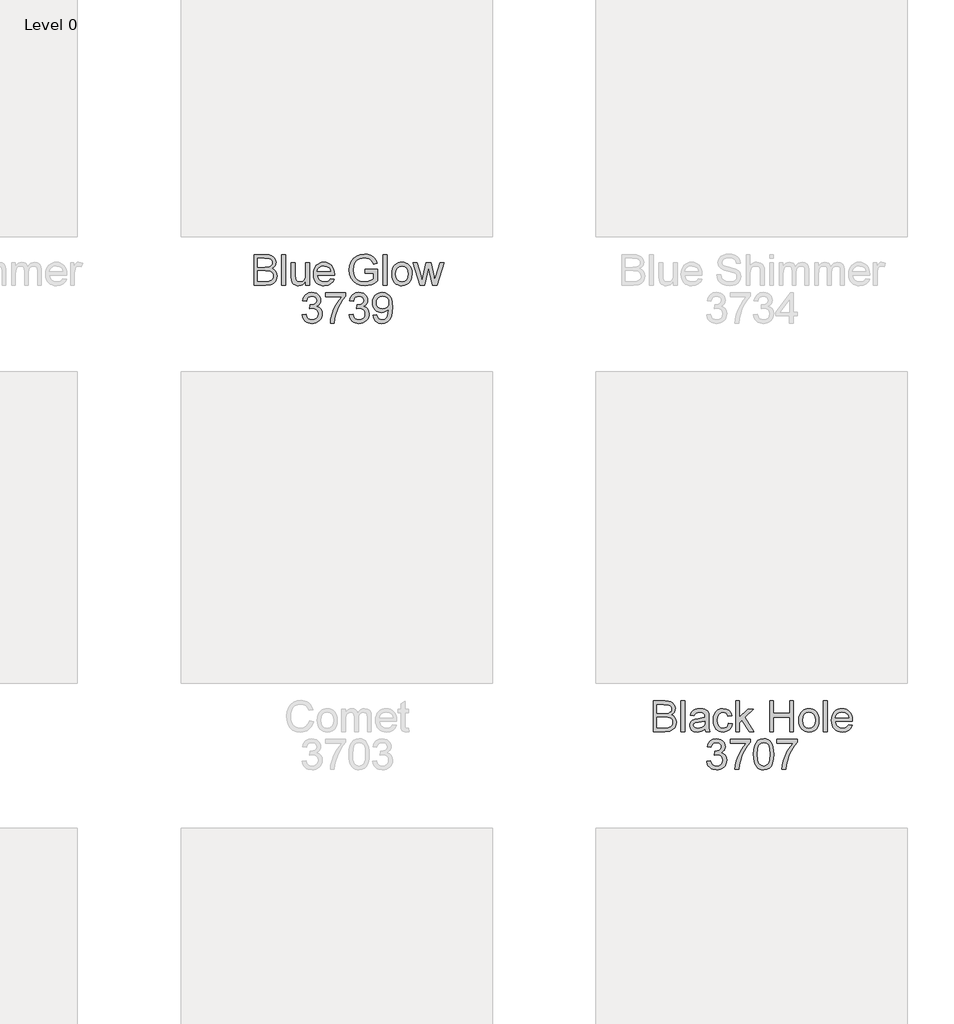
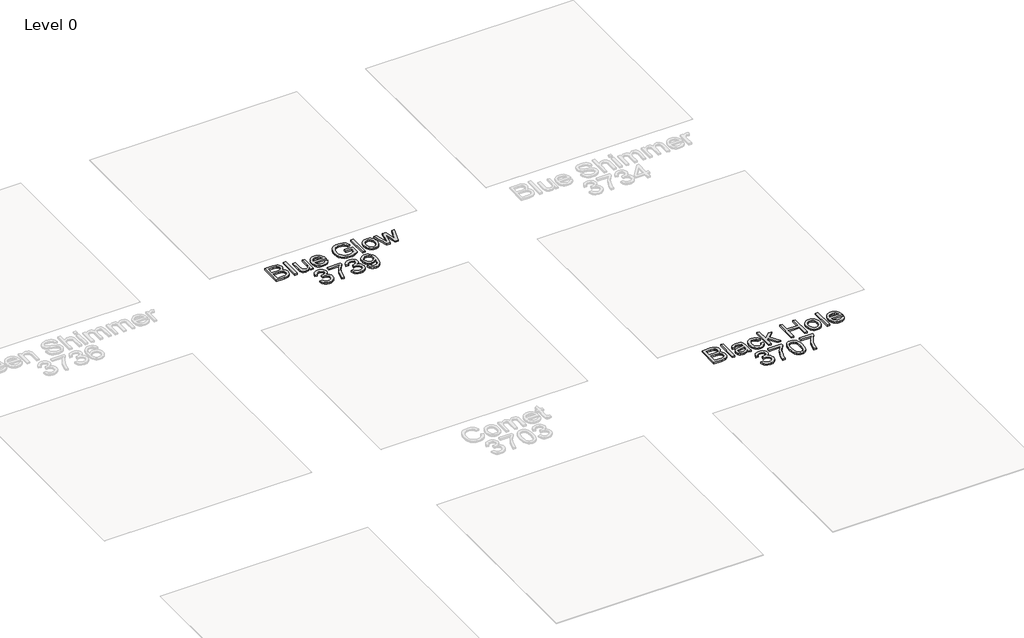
# One storey, part 11 of 14: 2 proxies.
"""IFC4 building model written with IfcOpenShell, lengths in millimetres."""

from ifc_helpers import new_model, si_unit, origin, origin_with_axes, place, context, project, spatial, polyline, outline, extrude, element, save

model = new_model("IFC4")

# Units and contexts
model_context = context("Model", 3, world=origin())
ifc_project = project(units=[si_unit("LENGTHUNIT", "METRE", prefix="MILLI")], contexts=[model_context])

# Site, building, storey
site = spatial("IfcSite", under=ifc_project)
building = spatial("IfcBuilding", under=site)
storey = spatial("IfcBuildingStorey", under=building, Name="Level 0", Elevation=0.0)

# Proxies
placement = place(None, origin())
element("IfcBuildingElementProxy", 1, Name="300mm Arial", ObjectType="300mm Arial", at=placement, inside=storey, context=model_context, shape_type="SweptSolid", body=[
    extrude(outline(polyline([(3249.9631967, -2137.1730179), (3249.9631967, -1841.7884025), (3362.6795429, -1841.7884025), (3393.6801438, -1843.9608784), (3417.8838698, -1850.4783063), (3436.4355525, -1861.5029457), (3450.4800236, -1877.1970563), (3459.3231727, -1895.6585948), (3462.270889, -1914.9855179), (3459.7919227, -1932.7709746), (3452.3550236, -1949.4927294), (3439.9061054, -1964.123138), (3422.3910813, -1975.6345563), (3443.3135573, -1986.5600371), (3458.7732929, -2003.1826332), (3468.3195669, -2024.4025852), (3471.5016583, -2049.1201332), (3469.3291823, -2069.71809), (3462.8117544, -2088.8196525), (3453.0851919, -2105.0636429), (3441.2853121, -2117.0888832), (3426.8351919, -2125.7968159), (3409.1579083, -2132.0888832), (3361.8141583, -2137.1730179), (3249.9631967, -2137.1730179)]), holes=[polyline([(3286.8862736, -2100.2499409), (3362.6074275, -2100.2499409), (3390.0112736, -2098.8076332), (3413.1963698, -2090.7667679), (3428.5569467, -2074.3605179), (3433.0731727, -2062.7679698), (3434.5785813, -2049.4807102), (3432.8117544, -2034.0480179), (3427.5112736, -2020.7787871), (3418.2534611, -2010.4031861), (3404.614639, -2003.6513832), (3385.2967304, -1999.9464554), (3359.0016583, -1998.7114794), (3286.8862736, -1998.7114794), (3286.8862736, -2100.2499409)]), polyline([(3286.8862736, -1961.7884025), (3354.3141583, -1961.7884025), (3393.6891583, -1958.6153255), (3407.4722111, -1953.1435707), (3417.3790621, -1944.9494602), (3423.3556246, -1934.1591957), (3425.3478121, -1920.8989794), (3423.490841, -1908.0263832), (3417.9199275, -1896.8124409), (3408.8874756, -1888.0594361), (3396.645889, -1882.5696525), (3349.193966, -1878.7114794), (3286.8862736, -1878.7114794), (3286.8862736, -1961.7884025)])]), origin_with_axes(), (0.0, 0.0, 1.0), 20.0),
    extrude(outline(polyline([(3517.6555044, -2137.1730179), (3517.6555044, -1841.7884025), (3554.5785813, -1841.7884025), (3554.5785813, -2137.1730179), (3517.6555044, -2137.1730179)])), origin_with_axes(), (0.0, 0.0, 1.0), 20.0),
    extrude(outline(polyline([(3748.4247352, -2137.1730179), (3748.4247352, -2099.889364), (3735.0653602, -2118.2201933), (3719.506466, -2131.3136429), (3701.7480525, -2139.1697126), (3681.7901198, -2141.7884025), (3663.8063458, -2139.9494602), (3647.0665621, -2134.4326332), (3633.022091, -2126.139364), (3623.1242544, -2115.9710948), (3612.1266583, -2088.7835948), (3609.9631967, -2054.4566717), (3609.9631967, -1920.2499409), (3646.8862736, -1920.2499409), (3646.8862736, -2037.076864), (3649.1218506, -2074.7210948), (3654.5034611, -2087.2781861), (3663.725216, -2096.8244602), (3676.1741342, -2102.8551092), (3691.2372352, -2104.8653255), (3707.1657208, -2102.8100371), (3722.0665621, -2096.6441717), (3734.3532208, -2086.935638), (3742.4391583, -2074.2523448), (3746.928341, -2056.8815515), (3748.4247352, -2033.1105179), (3748.4247352, -1920.2499409), (3785.3478121, -1920.2499409), (3785.3478121, -2137.1730179), (3748.4247352, -2137.1730179)])), origin_with_axes(), (0.0, 0.0, 1.0), 20.0),
    extrude(outline(polyline([(3987.9920429, -2072.5576332), (4024.193966, -2077.1730179), (4011.1500958, -2104.4506621), (3990.3357929, -2124.8412871), (3962.2198073, -2137.5516236), (3927.270889, -2141.7884025), (3904.3607328, -2139.9607282), (3883.9475717, -2134.4777054), (3866.0314059, -2125.339334), (3850.6122352, -2112.545614), (3838.2128962, -2096.4526152), (3829.3562256, -2077.4164073), (3824.0422232, -2055.4369902), (3822.270889, -2030.514364), (3824.060252, -2004.7466356), (3829.428341, -1982.0347967), (3838.3751559, -1962.3788472), (3850.9006967, -1945.7787871), (3866.2793025, -1932.5906861), (3883.7853121, -1923.170614), (3903.4187256, -1917.5185707), (3925.1795429, -1915.6345563), (3946.2394888, -1917.5140635), (3965.2847111, -1923.1525852), (3982.3152099, -1932.5501212), (3997.3309852, -1945.7066717), (4009.588347, -1962.2706741), (4018.3436054, -1981.8905659), (4023.5967604, -2004.5663472), (4025.3478121, -2030.2980179), (4025.131466, -2040.2499409), (3859.193966, -2040.2499409), (3865.5851919, -2067.8881621), (3880.4319467, -2088.2066717), (3901.8592304, -2100.7006621), (3927.9920429, -2104.8653255), (3947.6434852, -2102.936239), (3964.193966, -2097.1489794), (3977.6434852, -2087.1429698), (3987.9920429, -2072.5576332)]), holes=[polyline([(3859.193966, -2003.326864), (3988.4247352, -2003.326864), (3983.4307448, -1983.8196525), (3973.6410813, -1969.8653255), (3952.114639, -1956.8845563), (3925.0353121, -1952.5576332), (3900.14649, -1956.0101573), (3879.5665621, -1966.3677294), (3865.2606727, -1982.5125611), (3859.193966, -2003.326864)])]), origin_with_axes(), (0.0, 0.0, 1.0), 20.0),
    extrude(outline(polyline([(4320.7324275, -2021.7884025), (4320.7324275, -1984.8653255), (4440.7324275, -1984.8653255), (4440.7324275, -2095.2739794), (4411.5707688, -2115.5564313), (4381.489639, -2130.1057102), (4350.5611535, -2138.8677294), (4318.8574275, -2141.7884025), (4277.4361535, -2137.1459746), (4239.9992544, -2123.2186909), (4208.8994948, -2100.4933304), (4186.489639, -2069.4566717), (4172.9409611, -2032.2271044), (4168.4247352, -1990.9230179), (4172.9229323, -1949.3214554), (4186.4175236, -1910.6225371), (4208.349615, -1878.1615996), (4238.1603121, -1855.2739794), (4274.4704083, -1841.6982582), (4315.9006967, -1837.1730179), (4346.3153602, -1839.796215), (4373.6651198, -1847.6658063), (4396.6969708, -1860.2138832), (4414.1579083, -1876.8725371), (4427.0755765, -1898.4440515), (4436.4776198, -1925.7307102), (4402.4391583, -1935.3220563), (4394.8399996, -1915.8599169), (4385.600216, -1901.1754217), (4373.3766583, -1890.1057102), (4356.8261775, -1881.4879217), (4337.0936054, -1875.9440515), (4315.3237736, -1874.0960948), (4289.8399996, -1876.0882823), (4268.052139, -1882.0648448), (4250.0413217, -1891.2775852), (4235.8886775, -1902.9783063), (4216.8862736, -1931.4278255), (4208.2324275, -1959.3004217), (4205.3478121, -1989.4085948), (4208.818365, -2024.71809), (4219.2300236, -2053.7715755), (4236.2672833, -2076.3617198), (4259.614639, -2092.2811909), (4286.9373554, -2101.7192919), (4315.9006967, -2104.8653255), (4341.474615, -2102.4945323), (4366.4175236, -2095.3821525), (4388.0791823, -2085.5834746), (4403.8093506, -2075.1537871), (4403.8093506, -2021.7884025), (4320.7324275, -2021.7884025)])), origin_with_axes(), (0.0, 0.0, 1.0), 20.0),
    extrude(outline(polyline([(4496.1170429, -2137.1730179), (4496.1170429, -1841.7884025), (4533.0401198, -1841.7884025), (4533.0401198, -2137.1730179), (4496.1170429, -2137.1730179)])), origin_with_axes(), (0.0, 0.0, 1.0), 20.0),
    extrude(outline(polyline([(4579.193966, -2028.7114794), (4581.1906607, -2000.6180299), (4587.1807448, -1976.4097967), (4597.1642184, -1956.0867799), (4611.1410813, -1939.6489794), (4625.2125958, -1929.1426693), (4640.7444467, -1921.6381621), (4657.7366342, -1917.1354578), (4676.1891583, -1915.6345563), (4696.5595008, -1917.4622306), (4714.9782208, -1922.9452534), (4731.4453181, -1932.0836248), (4745.9607929, -1944.8773448), (4757.8079984, -1960.893721), (4766.2702881, -1979.7000611), (4771.3476619, -2001.2963652), (4773.0401198, -2025.6826332), (4770.0473313, -2062.9843159), (4761.068966, -2091.3797486), (4746.3664419, -2112.6447727), (4726.2011775, -2128.5552294), (4702.2498554, -2138.4801092), (4676.1891583, -2141.7884025), (4655.5213398, -2139.967489), (4636.9313458, -2134.5047486), (4620.4191763, -2125.4001813), (4605.9848313, -2112.6537871), (4594.2638277, -2096.4819121), (4585.8916823, -2077.1009025), (4580.868395, -2054.5107582), (4579.193966, -2028.7114794)]), holes=[polyline([(4616.1170429, -2028.639364), (4620.3898794, -2062.0558304), (4633.208389, -2085.8629217), (4652.4992544, -2100.1147246), (4676.1891583, -2104.8653255), (4699.770889, -2100.0876813), (4719.0256967, -2085.7547486), (4731.8442063, -2061.6321525), (4736.1170429, -2027.4855179), (4731.8171631, -1995.0426092), (4718.9175236, -1971.5600371), (4699.6356727, -1957.3082342), (4676.1891583, -1952.5576332), (4652.4992544, -1957.2902054), (4633.208389, -1971.4879217), (4620.3898794, -1995.2409265), (4616.1170429, -2028.639364)])]), origin_with_axes(), (0.0, 0.0, 1.0), 20.0),
    extrude(outline(polyline([(4850.5641583, -2137.1730179), (4784.5785813, -1920.2499409), (4822.943966, -1920.2499409), (4860.3718506, -2046.8124409), (4871.5497352, -2092.0287871), (4880.708389, -2048.4710948), (4910.4920429, -1920.2499409), (4954.4824275, -1920.2499409), (4984.1218506, -2048.1105179), (4992.270889, -2087.5576332), (5003.9535813, -2045.9470563), (5041.4535813, -1920.2499409), (5079.9631967, -1920.2499409), (5013.4728121, -2137.1730179), (4968.833389, -2137.1730179), (4940.4920429, -2009.9614794), (4932.270889, -1970.2980179), (4895.708389, -2137.1730179), (4850.5641583, -2137.1730179)])), origin_with_axes(), (0.0, 0.0, 1.0), 20.0),
    extrude(outline(polyline([(3713.8093506, -2423.326864), (3750.7324275, -2418.7114794), (3758.9986535, -2441.9146044), (3771.1050236, -2457.5816717), (3787.64649, -2466.5059505), (3809.2180044, -2469.4807102), (3834.5305044, -2465.3881621), (3854.0737736, -2453.1105179), (3866.567764, -2434.7932102), (3870.7324275, -2412.5816717), (3866.6038217, -2391.4969361), (3854.2180044, -2374.3965755), (3835.4680044, -2363.0654457), (3812.2468506, -2359.2884025), (3786.3574275, -2363.326864), (3790.4680044, -2326.4037871), (3796.381466, -2326.8364794), (3818.5028602, -2324.186239), (3838.2805044, -2316.2355179), (3852.2348313, -2302.7859986), (3856.8862736, -2283.639364), (3853.5148794, -2267.6928496), (3843.4006967, -2254.7571525), (3827.9680044, -2246.1844361), (3808.6410813, -2243.326864), (3789.2781006, -2246.2114794), (3773.4487736, -2254.8653255), (3761.8922833, -2269.2884025), (3755.3478121, -2289.4807102), (3718.4247352, -2284.8653255), (3729.2961294, -2251.7102775), (3748.6410813, -2226.9566717), (3775.1074275, -2211.5420082), (3807.3430044, -2206.4037871), (3830.5551438, -2208.93684), (3851.8742544, -2216.5359986), (3869.849014, -2228.5251813), (3883.0281006, -2244.2283063), (3891.1140381, -2262.3202534), (3893.8093506, -2281.4759025), (3891.2492544, -2299.3244602), (3883.568966, -2315.514364), (3870.8766583, -2329.3064313), (3853.2805044, -2339.9614794), (3876.3934852, -2349.3004217), (3893.520889, -2365.201864), (3904.1218506, -2386.8004217), (3907.6555044, -2413.2307102), (3905.8886775, -2431.9626813), (3900.5881967, -2449.2162871), (3891.7540621, -2464.9915275), (3879.3862736, -2479.2884025), (3864.3186655, -2491.1513832), (3847.3850717, -2499.6249409), (3828.5854924, -2504.7090755), (3807.9199275, -2506.4037871), (3772.2228121, -2500.6165275), (3756.8622352, -2493.3824529), (3743.1603121, -2483.2547486), (3731.6714299, -2470.8283664), (3722.9499756, -2456.6982582), (3713.8093506, -2423.326864)])), origin_with_axes(), (0.0, 0.0, 1.0), 20.0),
    extrude(outline(polyline([(3939.9631967, -2247.9422486), (3939.9631967, -2211.0191717), (4133.8093506, -2211.0191717), (4133.8093506, -2240.8749409), (4106.1801438, -2275.841888), (4078.8213698, -2320.3100371), (4054.6897592, -2370.2228977), (4036.7420429, -2421.5239794), (4027.943966, -2459.9073929), (4023.0401198, -2501.7884025), (3986.1170429, -2501.7884025), (3990.1104323, -2463.7295082), (4000.7925236, -2418.4951332), (4017.8748554, -2370.5474169), (4041.068966, -2324.3484986), (4068.1482929, -2282.5846765), (4096.8862736, -2247.9422486), (3939.9631967, -2247.9422486)])), origin_with_axes(), (0.0, 0.0, 1.0), 20.0),
    extrude(outline(polyline([(4166.1170429, -2423.326864), (4203.0401198, -2418.7114794), (4211.3063458, -2441.9146044), (4223.412716, -2457.5816717), (4239.9541823, -2466.5059505), (4261.5256967, -2469.4807102), (4286.8381967, -2465.3881621), (4306.381466, -2453.1105179), (4318.8754563, -2434.7932102), (4323.0401198, -2412.5816717), (4318.911514, -2391.4969361), (4306.5256967, -2374.3965755), (4287.7756967, -2363.0654457), (4264.5545429, -2359.2884025), (4238.6651198, -2363.326864), (4242.7756967, -2326.4037871), (4248.6891583, -2326.8364794), (4270.8105525, -2324.186239), (4290.5881967, -2316.2355179), (4304.5425236, -2302.7859986), (4309.193966, -2283.639364), (4305.8225717, -2267.6928496), (4295.708389, -2254.7571525), (4280.2756967, -2246.1844361), (4260.9487736, -2243.326864), (4241.5857929, -2246.2114794), (4225.756466, -2254.8653255), (4214.1999756, -2269.2884025), (4207.6555044, -2289.4807102), (4170.7324275, -2284.8653255), (4181.6038217, -2251.7102775), (4200.9487736, -2226.9566717), (4227.4151198, -2211.5420082), (4259.6506967, -2206.4037871), (4282.8628361, -2208.93684), (4304.1819467, -2216.5359986), (4322.1567063, -2228.5251813), (4335.3357929, -2244.2283063), (4343.4217304, -2262.3202534), (4346.1170429, -2281.4759025), (4343.5569467, -2299.3244602), (4335.8766583, -2315.514364), (4323.1843506, -2329.3064313), (4305.5881967, -2339.9614794), (4328.7011775, -2349.3004217), (4345.8285813, -2365.201864), (4356.4295429, -2386.8004217), (4359.9631967, -2413.2307102), (4358.1963698, -2431.9626813), (4352.895889, -2449.2162871), (4344.0617544, -2464.9915275), (4331.693966, -2479.2884025), (4316.6263578, -2491.1513832), (4299.692764, -2499.6249409), (4280.8931847, -2504.7090755), (4260.2276198, -2506.4037871), (4224.5305044, -2500.6165275), (4209.1699275, -2493.3824529), (4195.4680044, -2483.2547486), (4183.9791222, -2470.8283664), (4175.2576679, -2456.6982582), (4166.1170429, -2423.326864)])), origin_with_axes(), (0.0, 0.0, 1.0), 20.0),
    extrude(outline(polyline([(4396.8862736, -2427.9422486), (4433.8093506, -2423.326864), (4440.1194467, -2444.2853977), (4450.395889, -2458.5552294), (4464.3862736, -2466.74934), (4481.8381967, -2469.4807102), (4497.4962496, -2467.7228977), (4511.7300236, -2462.4494602), (4523.5569467, -2454.2373207), (4531.9944467, -2443.6634025), (4544.0737736, -2411.5720563), (4549.4103121, -2368.7355179), (4549.193966, -2361.5239794), (4536.4024996, -2377.1369602), (4519.662716, -2389.5047486), (4500.1825477, -2397.5636429), (4479.1699275, -2400.2499409), (4461.6301138, -2398.6093159), (4445.5010573, -2393.6874409), (4430.782758, -2385.4843159), (4417.475216, -2373.9999409), (4406.4483229, -2359.8337751), (4398.5719708, -2343.5852775), (4393.8461595, -2325.2544481), (4392.270889, -2304.8412871), (4393.9227821, -2283.7475371), (4398.8784611, -2264.8172486), (4407.1379263, -2248.0504217), (4418.7011775, -2233.4470563), (4432.7524095, -2221.615626), (4448.4758169, -2213.1646044), (4465.8713998, -2208.0939914), (4484.9391583, -2206.4037871), (4512.4782208, -2210.2619602), (4537.5473313, -2221.8364794), (4558.5148794, -2240.5504217), (4573.7492544, -2265.826864), (4583.0250958, -2300.7667679), (4586.1170429, -2348.4710948), (4583.0341102, -2399.0510227), (4573.7853121, -2438.1465755), (4558.4517785, -2467.5245804), (4537.114639, -2488.951864), (4510.693365, -2502.0408063), (4480.1074275, -2506.4037871), (4448.5389179, -2501.2565515), (4423.3526198, -2485.8148448), (4405.7384371, -2461.0522246), (4396.8862736, -2427.9422486)]), holes=[polyline([(4549.193966, -2303.9759025), (4545.209591, -2278.951864), (4533.256466, -2259.6970563), (4514.7047833, -2247.4194121), (4490.9247352, -2243.326864), (4466.2612736, -2247.7349169), (4446.5016583, -2260.9590755), (4433.520889, -2281.1964554), (4429.193966, -2306.6441717), (4433.286514, -2329.4596765), (4445.5641583, -2347.5696525), (4464.8369948, -2359.3875611), (4489.9151198, -2363.326864), (4513.505865, -2359.3875611), (4532.4992544, -2347.5696525), (4545.0202881, -2328.7926092), (4549.193966, -2303.9759025)])]), origin_with_axes(), (0.0, 0.0, 1.0), 20.0),
])
element("IfcBuildingElementProxy", 2, Name="300mm Arial", ObjectType="300mm Arial", at=placement, inside=storey, context=model_context, shape_type="SweptSolid", body=[
    extrude(outline(polyline([(7099.193966, -6437.1730179), (7099.193966, -6141.7884025), (7211.9103121, -6141.7884025), (7242.9109131, -6143.9608784), (7267.114639, -6150.4783063), (7285.6663217, -6161.5029457), (7299.7107929, -6177.1970563), (7308.5539419, -6195.6585948), (7311.5016583, -6214.9855179), (7309.0226919, -6232.7709746), (7301.5857929, -6249.4927294), (7289.1368746, -6264.123138), (7271.6218506, -6275.6345563), (7292.5443265, -6286.5600371), (7308.0040621, -6303.1826332), (7317.5503361, -6324.4025852), (7320.7324275, -6349.1201332), (7318.5599515, -6369.71809), (7312.0425236, -6388.8196525), (7302.3159611, -6405.0636429), (7290.5160813, -6417.0888832), (7276.0659611, -6425.7968159), (7258.3886775, -6432.0888832), (7211.0449275, -6437.1730179), (7099.193966, -6437.1730179)]), holes=[polyline([(7136.1170429, -6400.2499409), (7211.8381967, -6400.2499409), (7239.2420429, -6398.8076332), (7262.427139, -6390.7667679), (7277.787716, -6374.3605179), (7282.3039419, -6362.7679698), (7283.8093506, -6349.4807102), (7282.0425236, -6334.0480179), (7276.7420429, -6320.7787871), (7267.4842304, -6310.4031861), (7253.8454083, -6303.6513832), (7234.5274996, -6299.9464554), (7208.2324275, -6298.7114794), (7136.1170429, -6298.7114794), (7136.1170429, -6400.2499409)]), polyline([(7136.1170429, -6261.7884025), (7203.5449275, -6261.7884025), (7242.9199275, -6258.6153255), (7256.7029804, -6253.1435707), (7266.6098313, -6244.9494602), (7272.5863938, -6234.1591957), (7274.5785813, -6220.8989794), (7272.7216102, -6208.0263832), (7267.1506967, -6196.8124409), (7258.1182448, -6188.0594361), (7245.8766583, -6182.5696525), (7198.4247352, -6178.7114794), (7136.1170429, -6178.7114794), (7136.1170429, -6261.7884025)])]), origin_with_axes(), (0.0, 0.0, 1.0), 20.0),
    extrude(outline(polyline([(7366.8862736, -6437.1730179), (7366.8862736, -6141.7884025), (7403.8093506, -6141.7884025), (7403.8093506, -6437.1730179), (7366.8862736, -6437.1730179)])), origin_with_axes(), (0.0, 0.0, 1.0), 20.0),
    extrude(outline(polyline([(7597.6555044, -6409.4807102), (7580.0142785, -6424.6069121), (7561.850216, -6434.5047486), (7542.7486535, -6439.967489), (7522.2949275, -6441.7884025), (7491.4385573, -6437.4073929), (7468.677139, -6424.264364), (7454.6416823, -6404.3064313), (7449.9631967, -6379.4807102), (7451.7300236, -6364.1742198), (7457.0305044, -6350.2739794), (7465.2065861, -6338.3749409), (7475.600216, -6329.0720563), (7501.4535813, -6316.9566717), (7533.4006967, -6311.4037871), (7571.1531006, -6305.5624409), (7597.4391583, -6298.7114794), (7597.6555044, -6290.4903255), (7595.1134371, -6274.0119602), (7587.4872352, -6263.2307102), (7570.4319467, -6255.2259025), (7546.6699275, -6252.5576332), (7524.6747352, -6254.3334746), (7509.3141583, -6259.6609986), (7498.8393986, -6269.513763), (7491.5016583, -6284.8653255), (7454.5785813, -6280.2499409), (7460.9878361, -6260.0576332), (7470.552139, -6244.1922486), (7484.1639179, -6232.0588352), (7502.7156006, -6223.0624409), (7525.4049035, -6217.4915275), (7551.4295429, -6215.6345563), (7576.3904804, -6217.2751813), (7596.177139, -6222.1970563), (7611.0960092, -6229.5978977), (7621.4535813, -6238.6754217), (7628.3225717, -6249.8983784), (7632.7756967, -6263.7355179), (7634.5785813, -6296.0432102), (7634.5785813, -6341.9807102), (7636.4535813, -6406.1273448), (7643.8093506, -6437.1730179), (7606.8862736, -6437.1730179), (7597.6555044, -6409.4807102)]), holes=[polyline([(7597.6555044, -6335.6345563), (7538.0881967, -6346.9566717), (7506.3213698, -6352.9422486), (7491.9343506, -6362.6778255), (7486.8862736, -6376.8845563), (7489.6356727, -6387.8641236), (7497.8838698, -6396.8605179), (7511.4505765, -6402.8641236), (7530.1555044, -6404.8653255), (7549.9872352, -6402.6567919), (7567.5112736, -6396.0311909), (7581.7180044, -6386.2685707), (7591.5978121, -6374.6489794), (7595.9788217, -6362.6778255), (7597.4391583, -6346.0912871), (7597.6555044, -6335.6345563)])]), origin_with_axes(), (0.0, 0.0, 1.0), 20.0),
    extrude(outline(polyline([(7823.8093506, -6358.7114794), (7860.7324275, -6363.326864), (7850.4379563, -6396.1664073), (7831.0930044, -6420.983114), (7804.5184852, -6436.5870804), (7772.5353121, -6441.7884025), (7751.8269287, -6439.9742498), (7733.2594708, -6434.5317919), (7716.8329383, -6425.4610287), (7702.5473313, -6412.7619602), (7690.9840801, -6396.6734686), (7682.724615, -6377.4344361), (7677.7689359, -6355.0448628), (7676.1170429, -6329.5047486), (7678.9385573, -6296.6471765), (7687.4031006, -6268.170614), (7701.645889, -6245.1748207), (7721.802139, -6228.7595563), (7745.9157208, -6218.9158063), (7772.0305044, -6215.6345563), (7803.2294227, -6220.1417679), (7828.1723313, -6233.6634025), (7846.0659611, -6255.4783063), (7856.1170429, -6284.8653255), (7819.193966, -6289.4807102), (7812.4962496, -6273.3719361), (7802.0665621, -6261.8244602), (7788.4818265, -6254.87434), (7772.318966, -6252.5576332), (7748.4577881, -6257.1189313), (7729.5184852, -6270.8028255), (7717.1597111, -6294.3484986), (7713.0401198, -6328.4951332), (7717.0695669, -6363.1015034), (7729.1579083, -6386.7283063), (7747.7546631, -6400.3310707), (7771.3093506, -6404.8653255), (7790.4289419, -6402.0347967), (7806.1050236, -6393.5432102), (7817.5082688, -6379.1742198), (7823.8093506, -6358.7114794)])), origin_with_axes(), (0.0, 0.0, 1.0), 20.0),
    extrude(outline(polyline([(7893.0401198, -6437.1730179), (7893.0401198, -6141.7884025), (7929.9631967, -6141.7884025), (7929.9631967, -6300.514364), (8012.7516583, -6220.2499409), (8063.8093506, -6220.2499409), (7980.0112736, -6301.5239794), (8068.4247352, -6437.1730179), (8025.2997352, -6437.1730179), (7953.5449275, -6327.1970563), (7929.9631967, -6350.0576332), (7929.9631967, -6437.1730179), (7893.0401198, -6437.1730179)])), origin_with_axes(), (0.0, 0.0, 1.0), 20.0),
    extrude(outline(polyline([(8220.7324275, -6437.1730179), (8220.7324275, -6141.7884025), (8257.6555044, -6141.7884025), (8257.6555044, -6261.7884025), (8414.5785813, -6261.7884025), (8414.5785813, -6141.7884025), (8451.5016583, -6141.7884025), (8451.5016583, -6437.1730179), (8414.5785813, -6437.1730179), (8414.5785813, -6298.7114794), (8257.6555044, -6298.7114794), (8257.6555044, -6437.1730179), (8220.7324275, -6437.1730179)])), origin_with_axes(), (0.0, 0.0, 1.0), 20.0),
    extrude(outline(polyline([(8502.270889, -6328.7114794), (8504.2675837, -6300.6180299), (8510.2576679, -6276.4097967), (8520.2411414, -6256.0867799), (8534.2180044, -6239.6489794), (8548.2895188, -6229.1426693), (8563.8213698, -6221.6381621), (8580.8135573, -6217.1354578), (8599.2660813, -6215.6345563), (8619.6364239, -6217.4622306), (8638.0551438, -6222.9452534), (8654.5222412, -6232.0836248), (8669.037716, -6244.8773448), (8680.8849215, -6260.893721), (8689.3472111, -6279.7000611), (8694.4245849, -6301.2963652), (8696.1170429, -6325.6826332), (8693.1242544, -6362.9843159), (8684.145889, -6391.3797486), (8669.443365, -6412.6447727), (8649.2781006, -6428.5552294), (8625.3267785, -6438.4801092), (8599.2660813, -6441.7884025), (8578.5982628, -6439.967489), (8560.0082688, -6434.5047486), (8543.4960994, -6425.4001813), (8529.0617544, -6412.6537871), (8517.3407508, -6396.4819121), (8508.9686054, -6377.1009025), (8503.9453181, -6354.5107582), (8502.270889, -6328.7114794)]), holes=[polyline([(8539.193966, -6328.639364), (8543.4668025, -6362.0558304), (8556.2853121, -6385.8629217), (8575.5761775, -6400.1147246), (8599.2660813, -6404.8653255), (8622.8478121, -6400.0876813), (8642.1026198, -6385.7547486), (8654.9211294, -6361.6321525), (8659.193966, -6327.4855179), (8654.8940861, -6295.0426092), (8641.9944467, -6271.5600371), (8622.7125958, -6257.3082342), (8599.2660813, -6252.5576332), (8575.5761775, -6257.2902054), (8556.2853121, -6271.4879217), (8543.4668025, -6295.2409265), (8539.193966, -6328.639364)])]), origin_with_axes(), (0.0, 0.0, 1.0), 20.0),
    extrude(outline(polyline([(8737.6555044, -6437.1730179), (8737.6555044, -6141.7884025), (8774.5785813, -6141.7884025), (8774.5785813, -6437.1730179), (8737.6555044, -6437.1730179)])), origin_with_axes(), (0.0, 0.0, 1.0), 20.0),
    extrude(outline(polyline([(8981.8381967, -6372.5576332), (9018.0401198, -6377.1730179), (9004.9962496, -6404.4506621), (8984.1819467, -6424.8412871), (8956.0659611, -6437.5516236), (8921.1170429, -6441.7884025), (8898.2068866, -6439.9607282), (8877.7937256, -6434.4777054), (8859.8775597, -6425.339334), (8844.458389, -6412.545614), (8832.0590501, -6396.4526152), (8823.2023794, -6377.4164073), (8817.888377, -6355.4369902), (8816.1170429, -6330.514364), (8817.9064059, -6304.7466356), (8823.2744948, -6282.0347967), (8832.2213097, -6262.3788472), (8844.7468506, -6245.7787871), (8860.1254563, -6232.5906861), (8877.631466, -6223.170614), (8897.2648794, -6217.5185707), (8919.0256967, -6215.6345563), (8940.0856426, -6217.5140635), (8959.130865, -6223.1525852), (8976.1613638, -6232.5501212), (8991.177139, -6245.7066717), (9003.4345008, -6262.2706741), (9012.1897592, -6281.8905659), (9017.4429143, -6304.5663472), (9019.193966, -6330.2980179), (9018.9776198, -6340.2499409), (8853.0401198, -6340.2499409), (8859.4313458, -6367.8881621), (8874.2781006, -6388.2066717), (8895.7053842, -6400.7006621), (8921.8381967, -6404.8653255), (8941.489639, -6402.936239), (8958.0401198, -6397.1489794), (8971.489639, -6387.1429698), (8981.8381967, -6372.5576332)]), holes=[polyline([(8853.0401198, -6303.326864), (8982.270889, -6303.326864), (8977.2768986, -6283.8196525), (8967.4872352, -6269.8653255), (8945.9607929, -6256.8845563), (8918.881466, -6252.5576332), (8893.9926438, -6256.0101573), (8873.412716, -6266.3677294), (8859.1068265, -6282.5125611), (8853.0401198, -6303.326864)])]), origin_with_axes(), (0.0, 0.0, 1.0), 20.0),
    extrude(outline(polyline([(7613.8093506, -6723.326864), (7650.7324275, -6718.7114794), (7658.9986535, -6741.9146044), (7671.1050236, -6757.5816717), (7687.64649, -6766.5059505), (7709.2180044, -6769.4807102), (7734.5305044, -6765.3881621), (7754.0737736, -6753.1105179), (7766.567764, -6734.7932102), (7770.7324275, -6712.5816717), (7766.6038217, -6691.4969361), (7754.2180044, -6674.3965755), (7735.4680044, -6663.0654457), (7712.2468506, -6659.2884025), (7686.3574275, -6663.326864), (7690.4680044, -6626.4037871), (7696.381466, -6626.8364794), (7718.5028602, -6624.186239), (7738.2805044, -6616.2355179), (7752.2348313, -6602.7859986), (7756.8862736, -6583.639364), (7753.5148794, -6567.6928496), (7743.4006967, -6554.7571525), (7727.9680044, -6546.1844361), (7708.6410813, -6543.326864), (7689.2781006, -6546.2114794), (7673.4487736, -6554.8653255), (7661.8922833, -6569.2884025), (7655.3478121, -6589.4807102), (7618.4247352, -6584.8653255), (7629.2961294, -6551.7102775), (7648.6410813, -6526.9566717), (7675.1074275, -6511.5420082), (7707.3430044, -6506.4037871), (7730.5551438, -6508.93684), (7751.8742544, -6516.5359986), (7769.849014, -6528.5251813), (7783.0281006, -6544.2283063), (7791.1140381, -6562.3202534), (7793.8093506, -6581.4759025), (7791.2492544, -6599.3244602), (7783.568966, -6615.514364), (7770.8766583, -6629.3064313), (7753.2805044, -6639.9614794), (7776.3934852, -6649.3004217), (7793.520889, -6665.201864), (7804.1218506, -6686.8004217), (7807.6555044, -6713.2307102), (7805.8886775, -6731.9626813), (7800.5881967, -6749.2162871), (7791.7540621, -6764.9915275), (7779.3862736, -6779.2884025), (7764.3186655, -6791.1513832), (7747.3850717, -6799.6249409), (7728.5854924, -6804.7090755), (7707.9199275, -6806.4037871), (7672.2228121, -6800.6165275), (7656.8622352, -6793.3824529), (7643.1603121, -6783.2547486), (7631.6714299, -6770.8283664), (7622.9499756, -6756.6982582), (7613.8093506, -6723.326864)])), origin_with_axes(), (0.0, 0.0, 1.0), 20.0),
    extrude(outline(polyline([(7839.9631967, -6547.9422486), (7839.9631967, -6511.0191717), (8033.8093506, -6511.0191717), (8033.8093506, -6540.8749409), (8006.1801438, -6575.841888), (7978.8213698, -6620.3100371), (7954.6897592, -6670.2228977), (7936.7420429, -6721.5239794), (7927.943966, -6759.9073929), (7923.0401198, -6801.7884025), (7886.1170429, -6801.7884025), (7890.1104323, -6763.7295082), (7900.7925236, -6718.4951332), (7917.8748554, -6670.5474169), (7941.068966, -6624.3484986), (7968.1482929, -6582.5846765), (7996.8862736, -6547.9422486), (7839.9631967, -6547.9422486)])), origin_with_axes(), (0.0, 0.0, 1.0), 20.0),
    extrude(outline(polyline([(8066.1170429, -6656.4759025), (8068.8303842, -6609.1952534), (8076.9704083, -6571.4879217), (8090.4559852, -6542.7769842), (8109.2059852, -6522.4855179), (8133.3556246, -6510.4242198), (8163.0401198, -6506.4037871), (8185.7925236, -6508.7835948), (8206.1651198, -6515.9230179), (8223.2023794, -6527.5426092), (8235.9487736, -6543.3629217), (8245.5761775, -6563.248739), (8253.256466, -6587.0648448), (8258.286514, -6617.3082342), (8259.9631967, -6656.4759025), (8257.2768986, -6703.4861188), (8249.2180044, -6741.1033063), (8235.8135573, -6769.8412871), (8217.0906006, -6790.2138832), (8192.8868746, -6802.3563111), (8163.0401198, -6806.4037871), (8142.7035813, -6804.6459746), (8124.6747352, -6799.3725371), (8108.9535813, -6790.5834746), (8095.5401198, -6778.2787871), (8082.6675236, -6756.0356981), (8073.4728121, -6728.3208544), (8067.9559852, -6695.1342558), (8066.1170429, -6656.4759025)]), holes=[polyline([(8103.0401198, -6656.4037871), (8107.3670429, -6714.483715), (8112.7756967, -6734.3492498), (8120.3478121, -6748.0984986), (8139.6747352, -6764.1351573), (8163.0401198, -6769.4807102), (8186.4055044, -6764.1171284), (8205.7324275, -6748.0263832), (8213.3045429, -6734.2545984), (8218.7131967, -6714.3935707), (8223.0401198, -6656.4037871), (8218.8574275, -6599.6309505), (8213.6290621, -6579.8307703), (8206.3093506, -6565.7547486), (8187.0184852, -6548.9338352), (8162.6074275, -6543.326864), (8139.4944467, -6548.2667679), (8120.9247352, -6563.0864794), (8113.100216, -6578.4109986), (8107.5112736, -6599.0720563), (8103.0401198, -6656.4037871)])]), origin_with_axes(), (0.0, 0.0, 1.0), 20.0),
    extrude(outline(polyline([(8292.270889, -6547.9422486), (8292.270889, -6511.0191717), (8486.1170429, -6511.0191717), (8486.1170429, -6540.8749409), (8458.4878361, -6575.841888), (8431.1290621, -6620.3100371), (8406.9974515, -6670.2228977), (8389.0497352, -6721.5239794), (8380.2516583, -6759.9073929), (8375.3478121, -6801.7884025), (8338.4247352, -6801.7884025), (8342.4181246, -6763.7295082), (8353.100216, -6718.4951332), (8370.1825477, -6670.5474169), (8393.3766583, -6624.3484986), (8420.4559852, -6582.5846765), (8449.193966, -6547.9422486), (8292.270889, -6547.9422486)])), origin_with_axes(), (0.0, 0.0, 1.0), 20.0),
])

save(model, "model.ifc")
